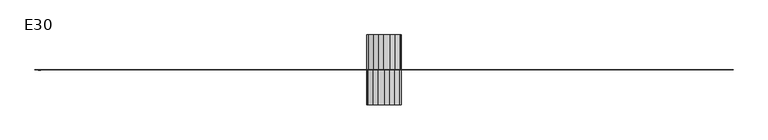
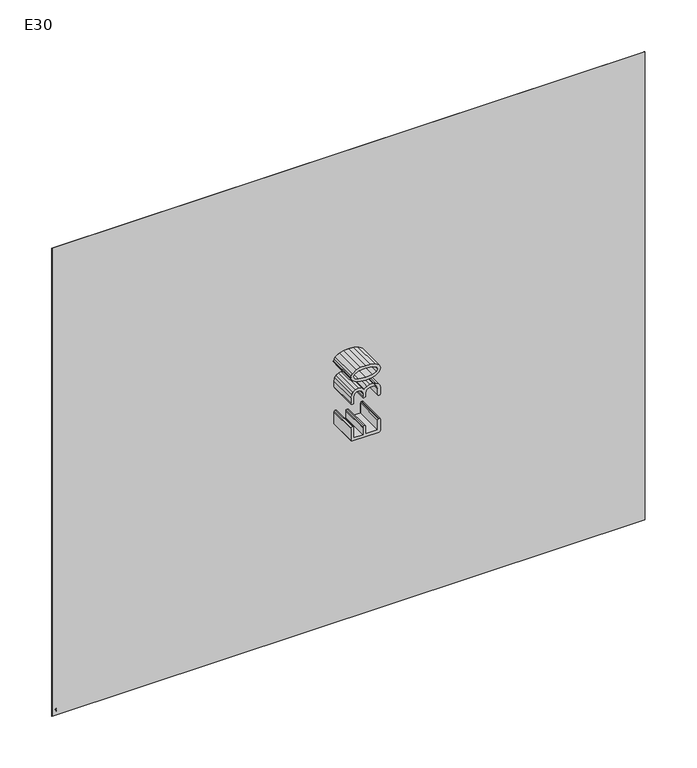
"""IFC4 building model written with IfcOpenShell, lengths in millimetres: proxy geometry, Fire_FireCompartmentationE : E30."""

from ifc_helpers import new_model, si_unit, point, frame, frame_2d, origin, origin_with_axes, place, context, project, spatial, polyline, circle_curve, trimmed, segment, composite_curve, outline, extrude, source, transform, mapped, element, save


def e30_8e1c58af(model_context):
    return source(origin(), model_context, "Body", "SweptSolid", [
        extrude(outline(polyline([(3000.0, -0.5), (0.0, -0.5), (0.0, 0.5), (3000.0, 0.5), (3000.0, -0.5)])), origin_with_axes(), (0.0, 0.0, 1.0), 2500.0),
        extrude(outline(composite_curve([segment(trimmed(circle_curve(frame_2d((28.9488523, 20.9372462)), 4.3000253), [point((27.7936078, 25.0791815))], [point((29.724042, 25.1668205))], False, "CARTESIAN"), True, "CONTINUOUS"), segment(trimmed(circle_curve(frame_2d((29.6833004, 19.2917407)), 5.875221), [point((29.724042, 25.1668205))], [point((32.6283278, 24.3755421))], False, "CARTESIAN"), True, "CONTINUOUS"), segment(trimmed(circle_curve(frame_2d((32.8576867, 20.8662932)), 3.5167361), [point((32.6283278, 24.3755421))], [point((30.6249304, 23.5833197))], True, "CARTESIAN"), True, "CONTINUOUS"), segment(trimmed(circle_curve(frame_2d((10.876956, 53.8348059)), 36.1266511), [point((30.6249304, 23.5833197))], [point((25.8949704, 20.9776277))], False, "CARTESIAN"), True, "CONTINUOUS"), segment(trimmed(circle_curve(frame_2d((21.9041848, 33.757735)), 13.3887083), [point((25.8949704, 20.9776277))], [point((22.6832699, 20.3917132))], False, "CARTESIAN"), True, "CONTINUOUS"), segment(trimmed(circle_curve(frame_2d((20.9508608, 39.8789486)), 19.5640891), [point((22.6832699, 20.3917132))], [point((20.0109811, 20.3374489))], False, "CARTESIAN"), True, "CONTINUOUS"), segment(trimmed(circle_curve(frame_2d((18.2722891, 30.1747881)), 9.9898094), [point((20.0109811, 20.3374489))], [point((25.2489423, 23.0247809))], True, "CARTESIAN"), True, "CONTINUOUS"), segment(trimmed(circle_curve(frame_2d((30.9774835, 18.5323372)), 7.2799887), [point((25.2489423, 23.0247809))], [point((27.7936078, 25.0791815))], False, "CARTESIAN"), True, "CONTINUOUS")], self_intersect=False)), frame((0.0, -0.6, 0.0), z_axis=(0.0, 1.0, 0.0), x_axis=(0.0, 0.0, 1.0)), (0.0, 0.0, 1.0), 1.2),
        extrude(outline(composite_curve([segment(trimmed(circle_curve(frame_2d((34.8553456, 17.4656787)), 4.3823741), [point((35.4675373, 21.8050824))], [point((32.7666638, 21.3182897))], True, "CARTESIAN"), True, "CONTINUOUS"), segment(trimmed(circle_curve(frame_2d((31.0348418, 25.2412811)), 4.2882478), [point((32.7666638, 21.3182897))], [point((31.0556823, 20.9530839))], False, "CARTESIAN"), True, "CONTINUOUS"), segment(trimmed(circle_curve(frame_2d((30.8661112, 26.3534755)), 5.4037178), [point((31.0556823, 20.9530839))], [point((28.4262544, 21.5319337))], False, "CARTESIAN"), True, "CONTINUOUS"), segment(trimmed(circle_curve(frame_2d((28.9867579, 26.8058524)), 5.3036197), [point((28.4262544, 21.5319337))], [point((30.6443727, 21.7679267))], True, "CARTESIAN"), True, "CONTINUOUS"), segment(trimmed(circle_curve(frame_2d((33.7648144, 18.2895153)), 4.6729544), [point((30.6443727, 21.7679267))], [point((32.5632515, 22.8053485))], False, "CARTESIAN"), True, "CONTINUOUS"), segment(trimmed(circle_curve(frame_2d((33.1708117, 19.8529583)), 3.0142556), [point((32.5632515, 22.8053485))], [point((35.4675373, 21.8050824))], False, "CARTESIAN"), True, "CONTINUOUS")], self_intersect=False)), frame((0.0, -0.6, 0.0), z_axis=(0.0, 1.0, 0.0), x_axis=(0.0, 0.0, 1.0)), (0.0, 0.0, 1.0), 1.2),
        extrude(outline(composite_curve([segment(trimmed(circle_curve(frame_2d((26.35828, 17.8501973)), 2.1465167), [point((27.6612009, 19.5560492))], [point((26.6135063, 19.9814864))], True, "CARTESIAN"), True, "CONTINUOUS"), segment(trimmed(circle_curve(frame_2d((25.771558, 13.6747037)), 6.3627341), [point((26.6135063, 19.9814864))], [point((25.1811141, 20.0099828))], True, "CARTESIAN"), True, "CONTINUOUS"), segment(trimmed(circle_curve(frame_2d((27.6708438, 15.0485986)), 5.5510437), [point((25.1811141, 20.0099828))], [point((27.8117089, 20.5978547))], False, "CARTESIAN"), True, "CONTINUOUS"), segment(trimmed(circle_curve(frame_2d((27.9681735, 17.2267436)), 3.3747401), [point((27.8117089, 20.5978547))], [point((29.507487, 20.2299728))], False, "CARTESIAN"), True, "CONTINUOUS"), segment(trimmed(circle_curve(frame_2d((31.5381431, 23.6896238)), 4.0115769), [point((29.507487, 20.2299728))], [point((32.2223971, 19.7368341))], True, "CARTESIAN"), True, "CONTINUOUS"), segment(trimmed(circle_curve(frame_2d((29.9256715, 21.6889582)), 3.0142556), [point((32.2223971, 19.7368341))], [point((29.3181113, 18.736568))], False, "CARTESIAN"), True, "CONTINUOUS"), segment(trimmed(circle_curve(frame_2d((30.5170043, 23.2454076)), 4.6655095), [point((29.3181113, 18.736568))], [point((27.6612009, 19.5560492))], False, "CARTESIAN"), True, "CONTINUOUS")], self_intersect=False)), frame((0.0, -0.6, 0.0), z_axis=(0.0, 1.0, 0.0), x_axis=(0.0, 0.0, 1.0)), (0.0, 0.0, 1.0), 1.2),
        extrude(outline(composite_curve([segment(trimmed(circle_curve(frame_2d((32.8467056, 19.4711557)), 3.5167361), [point((30.6139493, 16.7541292))], [point((32.6173467, 15.9619068))], True, "CARTESIAN"), True, "CONTINUOUS"), segment(trimmed(circle_curve(frame_2d((29.6723193, 21.0457082)), 5.875221), [point((32.6173467, 15.9619068))], [point((29.7130609, 15.1706284))], False, "CARTESIAN"), True, "CONTINUOUS"), segment(trimmed(circle_curve(frame_2d((28.9378712, 19.4002026)), 4.3000253), [point((29.7130609, 15.1706284))], [point((27.7826267, 15.2582674))], False, "CARTESIAN"), True, "CONTINUOUS"), segment(trimmed(circle_curve(frame_2d((30.9665024, 21.8051117)), 7.2799887), [point((27.7826267, 15.2582674))], [point((25.2379612, 17.312668))], False, "CARTESIAN"), True, "CONTINUOUS"), segment(trimmed(circle_curve(frame_2d((18.261308, 10.1626608)), 9.9898094), [point((25.2379612, 17.312668))], [point((20.0, 20.0))], True, "CARTESIAN"), True, "CONTINUOUS"), segment(trimmed(circle_curve(frame_2d((20.9398797, 0.4585003)), 19.5640891), [point((20.0, 20.0))], [point((22.6722888, 19.9457357))], False, "CARTESIAN"), True, "CONTINUOUS"), segment(trimmed(circle_curve(frame_2d((21.8932037, 6.5797139)), 13.3887083), [point((22.6722888, 19.9457357))], [point((25.8839893, 19.3598212))], False, "CARTESIAN"), True, "CONTINUOUS"), segment(trimmed(circle_curve(frame_2d((10.8659749, -13.497357)), 36.1266511), [point((25.8839893, 19.3598212))], [point((30.6139493, 16.7541292))], False, "CARTESIAN"), True, "CONTINUOUS")], self_intersect=False)), frame((0.0, -0.6, 0.0), z_axis=(0.0, 1.0, 0.0), x_axis=(0.0, 0.0, 1.0)), (0.0, 0.0, 1.0), 1.2),
        extrude(outline(polyline([(1060.3805069, 1432.4519024), (1060.3805069, 1566.9452739), (1062.1761461, 1572.5342008), (1067.5630635, 1574.3971764), (1127.2680648, 1574.3971764), (1132.8906599, 1572.6015372), (1134.7648582, 1567.2146198), (1132.8906599, 1561.8277024), (1127.2680648, 1560.0320633), (1074.74562, 1560.0320633), (1074.74562, 1514.0637013), (1112.274478, 1514.0637013), (1117.8970731, 1512.2680622), (1119.7712714, 1506.8811447), (1117.8970731, 1501.4942273), (1112.274478, 1499.6985882), (1074.74562, 1499.6985882), (1074.74562, 1439.3651131), (1127.2680648, 1439.3651131), (1132.8906599, 1437.569474), (1134.7648582, 1432.1825566), (1132.8906599, 1426.7956391), (1127.2680648, 1425.0), (1067.5630635, 1425.0), (1062.1761461, 1426.8629756), (1060.3805069, 1432.4519024)])), frame((0.0, 0.0, 0.0), z_axis=(0.0, 1.0, 0.0), x_axis=(0.0, 0.0, 1.0)), (0.0, 0.0, 1.0), 150.0),
        extrude(outline(polyline([(1293.5442491, 1499.6985882), (1278.5506623, 1499.6985882), (1272.9280673, 1501.4942273), (1271.0538689, 1506.8811447), (1272.9280673, 1512.2680622), (1278.5506623, 1514.0637013), (1293.5442491, 1514.0637013), (1302.2811558, 1515.7302789), (1309.5478829, 1520.7300116), (1314.446611, 1528.1426344), (1316.0795203, 1537.0478823), (1314.4297769, 1545.8689595), (1309.4805465, 1553.2984165), (1302.1969852, 1558.3486516), (1293.5442491, 1560.0320633), (1263.5570755, 1560.0320633), (1257.9344804, 1561.8277024), (1256.0602821, 1567.2146198), (1257.9344804, 1572.6015372), (1263.5570755, 1574.3971764), (1293.5442491, 1574.3971764), (1307.8925281, 1571.6419926), (1319.783026, 1563.3764412), (1327.7792316, 1551.2390428), (1330.4446334, 1536.8683184), (1326.6962367, 1520.0566469), (1315.4510466, 1506.8811447), (1326.6962367, 1493.8066473), (1330.4446334, 1477.118426), (1330.4446334, 1462.2146212), (1327.7680088, 1447.9112331), (1319.7381351, 1435.8860623), (1307.8364144, 1427.7215156), (1293.5442491, 1425.0), (1263.5570755, 1425.0), (1257.9344804, 1426.7956391), (1256.0602821, 1432.1825566), (1257.9344804, 1437.569474), (1263.5570755, 1439.3651131), (1293.5442491, 1439.3651131), (1302.2811558, 1441.0092452), (1309.5478829, 1445.9416415), (1314.446611, 1453.2420368), (1316.0795203, 1461.9901663), (1316.0795203, 1477.073535), (1314.4297769, 1485.7655507), (1309.4805465, 1493.0771689), (1302.1969852, 1498.0432334), (1293.5442491, 1499.6985882)])), frame((0.0, 0.0, 0.0), z_axis=(0.0, 1.0, 0.0), x_axis=(0.0, 0.0, 1.0)), (0.0, 0.0, 1.0), 150.0),
        extrude(outline(polyline([(1439.6194931, 1499.6985882), (1437.9136359, 1474.7953179), (1432.7960644, 1453.5057713), (1419.8225716, 1432.1264428), (1411.0800535, 1426.7816107), (1400.8336877, 1425.0), (1390.5873218, 1426.7759993), (1381.8448038, 1432.1039973), (1368.871311, 1453.4159894), (1363.7537395, 1474.7055359), (1362.0478823, 1499.6985882), (1363.7537395, 1524.6916405), (1368.871311, 1545.981187), (1381.8448038, 1567.293179), (1390.5873218, 1572.621177), (1400.8336877, 1574.3971764), (1411.0800535, 1572.6155657), (1419.8225716, 1567.2707335), (1432.7960644, 1545.891405), (1437.9136359, 1524.6018585), (1439.6194931, 1499.6985882)]), holes=[polyline([(1425.25438, 1499.6985882), (1420.944846, 1535.0277882), (1412.640015, 1553.7809945), (1400.8336877, 1560.0320633), (1389.128365, 1553.7473263), (1380.8572023, 1534.8931153), (1376.4129954, 1499.6985882), (1380.7225293, 1464.3693881), (1389.0273603, 1445.6161819), (1400.8336877, 1439.3651131), (1412.640015, 1445.6161819), (1420.944846, 1464.3693881), (1425.25438, 1499.6985882)])]), frame((0.0, 0.0, 0.0), z_axis=(0.0, 1.0, 0.0), x_axis=(0.0, 0.0, 1.0)), (0.0, 0.0, 1.0), 150.0),
        extrude(outline(polyline([(1060.3805069, 1567.5480976), (1062.1761461, 1573.1370244), (1067.5630635, 1575.0), (1127.2680648, 1575.0), (1132.8906599, 1573.2043609), (1134.7648582, 1567.8174434), (1132.8906599, 1562.430526), (1127.2680648, 1560.6348869), (1074.74562, 1560.6348869), (1074.74562, 1500.3014118), (1112.274478, 1500.3014118), (1117.8970731, 1498.5057727), (1119.7712714, 1493.1188553), (1117.8970731, 1487.7319378), (1112.274478, 1485.9362987), (1074.74562, 1485.9362987), (1074.74562, 1439.9679367), (1127.2680648, 1439.9679367), (1132.8906599, 1438.1722976), (1134.7648582, 1432.7853802), (1132.8906599, 1427.3984628), (1127.2680648, 1425.6028236), (1067.5630635, 1425.6028236), (1062.1761461, 1427.4657992), (1060.3805069, 1433.0547261), (1060.3805069, 1567.5480976)])), frame((0.0, -150.0, 0.0), z_axis=(0.0, 1.0, 0.0), x_axis=(0.0, 0.0, 1.0)), (0.0, 0.0, 1.0), 150.0),
        extrude(outline(polyline([(1293.5442491, 1500.3014118), (1302.1969852, 1501.9567666), (1309.4805465, 1506.9228311), (1314.4297769, 1514.2344493), (1316.0795203, 1522.926465), (1316.0795203, 1538.0098337), (1314.446611, 1546.7579632), (1309.5478829, 1554.0583585), (1302.2811558, 1558.9907548), (1293.5442491, 1560.6348869), (1263.5570755, 1560.6348869), (1257.9344804, 1562.430526), (1256.0602821, 1567.8174434), (1257.9344804, 1573.2043609), (1263.5570755, 1575.0), (1293.5442491, 1575.0), (1307.8364144, 1572.2784844), (1319.7381351, 1564.1139377), (1327.7680088, 1552.0887669), (1330.4446334, 1537.7853788), (1330.4446334, 1522.881574), (1326.6962367, 1506.1933527), (1315.4510466, 1493.1188553), (1326.6962367, 1479.9433531), (1330.4446334, 1463.1316816), (1327.7792316, 1448.7609572), (1319.783026, 1436.6235588), (1307.8925281, 1428.3580074), (1293.5442491, 1425.6028236), (1263.5570755, 1425.6028236), (1257.9344804, 1427.3984628), (1256.0602821, 1432.7853802), (1257.9344804, 1438.1722976), (1263.5570755, 1439.9679367), (1293.5442491, 1439.9679367), (1302.1969852, 1441.6513484), (1309.4805465, 1446.7015835), (1314.4297769, 1454.1310405), (1316.0795203, 1462.9521177), (1314.446611, 1471.8573656), (1309.5478829, 1479.2699884), (1302.2811558, 1484.2697211), (1293.5442491, 1485.9362987), (1278.5506623, 1485.9362987), (1272.9280673, 1487.7319378), (1271.0538689, 1493.1188553), (1272.9280673, 1498.5057727), (1278.5506623, 1500.3014118), (1293.5442491, 1500.3014118)])), frame((0.0, -150.0, 0.0), z_axis=(0.0, 1.0, 0.0), x_axis=(0.0, 0.0, 1.0)), (0.0, 0.0, 1.0), 150.0),
        extrude(outline(polyline([(1439.6194931, 1500.3014118), (1437.9136359, 1475.3981415), (1432.7960644, 1454.108595), (1419.8225716, 1432.7292665), (1411.0800535, 1427.3844343), (1400.8336877, 1425.6028236), (1390.5873218, 1427.378823), (1381.8448038, 1432.706821), (1368.871311, 1454.018813), (1363.7537395, 1475.3083595), (1362.0478823, 1500.3014118), (1363.7537395, 1525.2944641), (1368.871311, 1546.5840106), (1381.8448038, 1567.8960027), (1390.5873218, 1573.2240007), (1400.8336877, 1575.0), (1411.0800535, 1573.2183893), (1419.8225716, 1567.8735572), (1432.7960644, 1546.4942287), (1437.9136359, 1525.2046821), (1439.6194931, 1500.3014118)]), holes=[polyline([(1425.25438, 1500.3014118), (1420.944846, 1535.6306119), (1412.640015, 1554.3838181), (1400.8336877, 1560.6348869), (1389.0273603, 1554.3838181), (1380.7225293, 1535.6306119), (1376.4129954, 1500.3014118), (1380.8572023, 1465.1068847), (1389.128365, 1446.2526737), (1400.8336877, 1439.9679367), (1412.640015, 1446.2190055), (1420.944846, 1464.9722118), (1425.25438, 1500.3014118)])]), frame((0.0, -150.0, 0.0), z_axis=(0.0, 1.0, 0.0), x_axis=(0.0, 0.0, 1.0)), (0.0, 0.0, 1.0), 150.0),
    ])


if __name__ == "__main__":
    model = new_model("IFC4")
    model_context = context("Model", 3, world=origin())
    ifc_project = project(units=[si_unit("LENGTHUNIT", "METRE", prefix="MILLI")], contexts=[model_context])
    site = spatial("IfcSite", under=ifc_project)
    building = spatial("IfcBuilding", under=site)
    placement = place(None, origin())
    e30_shape = e30_8e1c58af(model_context)
    element("IfcBuildingElementProxy", 1, Name="Fire_FireCompartmentationE : E30", ObjectType="Fire_FireCompartmentationE : E30", at=placement, inside=building, context=model_context, shape_type="MappedRepresentation", body=[
        mapped(e30_shape, transform((0.0, 0.0, 0.0), x_axis=(1.0, 0.0, 0.0), y_axis=(0.0, 1.0, 0.0), z_axis=(0.0, 0.0, 1.0))),
    ])
    save(model, "model.ifc")
